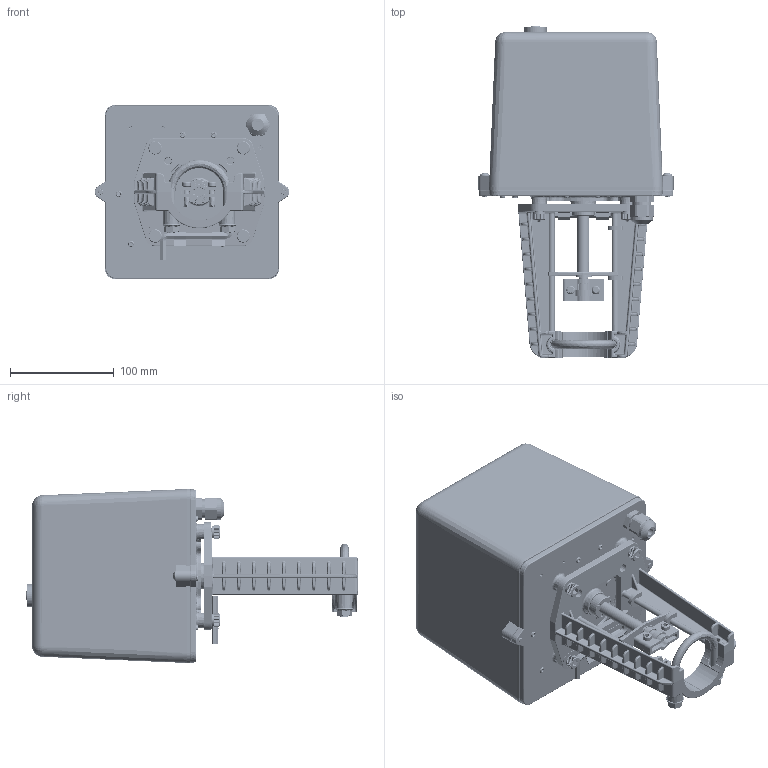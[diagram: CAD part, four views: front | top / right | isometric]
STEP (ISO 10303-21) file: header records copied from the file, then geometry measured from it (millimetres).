
FILE_DESCRIPTION (( 'STEP AP214' ), '1' );
FILE_NAME ('VAJ4E11执行器整机装配图V2.0底板结构20211214+（完成）.STEP', '2022-08-26T07:42:14', ( 'User' ), ( 'china' ), 'SwSTEP 2.0', 'SolidWorks 2013', '' );
FILE_SCHEMA (( 'AUTOMOTIVE_DESIGN' ));
Length unit declared in the file: millimetre
Products named in the file (28): 210401441-VAJ4系列轴导向套 12x22x21（防护&限位）（含O形圈）-20220302; 3000N-簽赽隊.dwg; 3x炵蹈U倰蹟邡; 3000N手轮轴(整体式 外置 96); 装配体.V2.0-VAJ3D&4&4x执行器阀杆连接夹子+螺钉（折边短0.5mm）; 1500N硌尨遠ㄗ綻ㄘ; VAJ4E11执行器整机装配图V2.0底板结构20211214+（完成）; 3D电子元件-3000N接线端子（5位）; Y型密封圈; M6x20不锈钢内六角螺钉; 1500N硌尨遠ㄗ懦ㄘ; 轴用卡簧外形图 12（指针固定使用）; M8x22不锈钢内六角螺钉; 【V2.0夹子2-2】Φ12阀杆头连接卡子-M6(折边短0.5mm); 装配体3-指针+指针套; 20151026 S=5mm内六角扳手（Z型）; 1800N3000N银色大方帽子（外置手轮）; U形卡子过孔中间分型-双面芯头-VAJ4S执行器支架-20141211变更; 【V2.0夹子2-1】Φ12阀杆头连接卡子-6.4(折边短0.5mm); 20130312 4E硌渀杶(埴說); PG11 3Dͼֽ; 装配体2U-U型(U54)螺栓+法兰螺母-20220210; 210301121-VAJ4S..系列指针85x20xδ3（第二版夹子使用）; 1800N3000N手轮扳手固定支架; 3000N粟銅隊ㄗ囀鞠褒ㄘ; VAJ4xx炵蹈湮菁啣V2.0-20130518; QCT864-六角法兰面承面带齿螺母-M8x1.25x7.7; 3000N硒俴ん枍倛佪話
Assembly tree (41 placements, depth 3):
  VAJ4E11执行器整机装配图V2.0底板结构20211214+（完成）
    VAJ4xx炵蹈湮菁啣V2.0-20130518
    PG11 3Dͼֽ
    U形卡子过孔中间分型-双面芯头-VAJ4S执行器支架-20141211变更
    M8x22不锈钢内六角螺钉  x4
    Y型密封圈
    3000N手轮轴(整体式 外置 96)
    3000N硒俴ん枍倛佪話
    装配体3-指针+指针套
      210301121-VAJ4S..系列指针85x20xδ3（第二版夹子使用）
      20130312 4E硌渀杶(埴說)  x2
    1500N硌尨遠ㄗ懦ㄘ
    1500N硌尨遠ㄗ綻ㄘ
    3000N-簽赽隊.dwg  x2
    3000N粟銅隊ㄗ囀鞠褒ㄘ  x8
    1800N3000N银色大方帽子（外置手轮）
    3D电子元件-3000N接线端子（5位）
    装配体2U-U型(U54)螺栓+法兰螺母-20220210
      3x炵蹈U倰蹟邡
      QCT864-六角法兰面承面带齿螺母-M8x1.25x7.7  x2
    装配体.V2.0-VAJ3D&4&4x执行器阀杆连接夹子+螺钉（折边短0.5mm）
      【V2.0夹子2-1】Φ12阀杆头连接卡子-6.4(折边短0.5mm)
      【V2.0夹子2-2】Φ12阀杆头连接卡子-M6(折边短0.5mm)
      M6x20不锈钢内六角螺钉  x2
    210401441-VAJ4系列轴导向套 12x22x21（防护&限位）（含O形圈）-20220302
    1800N3000N手轮扳手固定支架
    20151026 S=5mm内六角扳手（Z型）
    轴用卡簧外形图 12（指针固定使用）
Bounding box: 188 x 320 x 168 mm (x, y, z)
Surface area: 460679.1 mm2
Topology: 2 solids, 72 shells, 6598 faces, 16593 edges, 10265 vertices
Faces by surface type: cylinder 2142, plane 2117, bspline 1654, cone 581, sphere 104
Entity records: 311016 total; most frequent: CARTESIAN_POINT 140094, ORIENTED_EDGE 25772, DIRECTION 20719, EDGE_CURVE 12966, VERTEX_POINT 7918, AXIS2_PLACEMENT_3D 7748, EDGE_LOOP 5543, UNCERTAINTY_MEASURE_WITH_UNIT 5300
